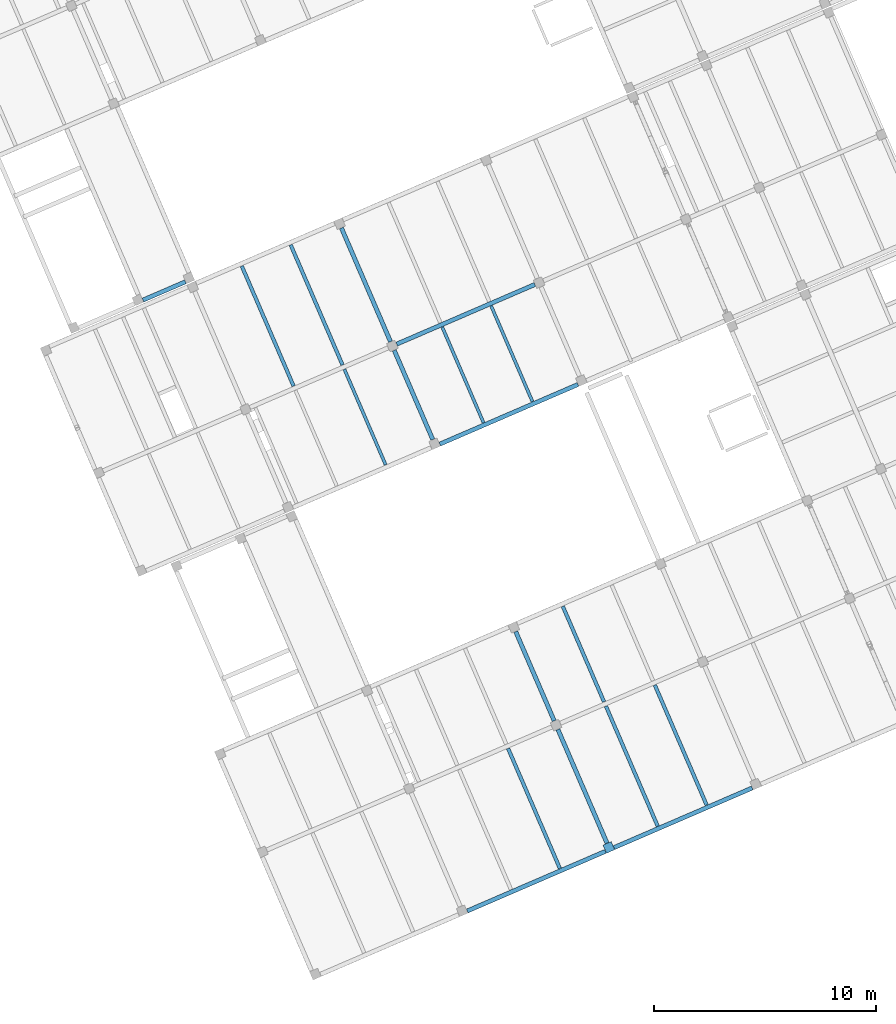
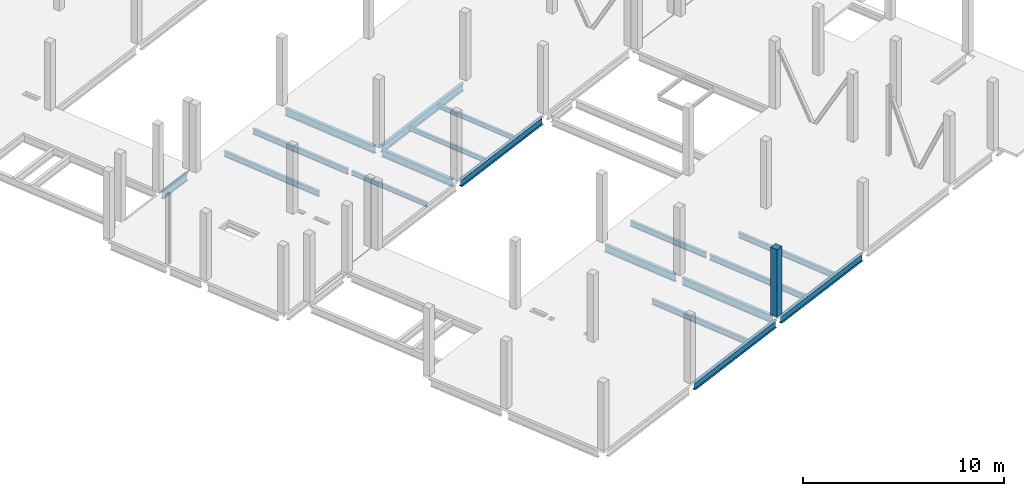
# One storey, part 9 of 24: 18 beams, 1 member.
"""IFC4 building model written with IfcOpenShell, lengths in metres."""

import ifcopenshell
import ifcopenshell.guid

model = None  # the IFC model being written
_history = None  # IfcOwnerHistory: only IFC2X3 demands one
_inside = {}  # id of a spatial element -> (the spatial element, [elements in it])
_under = {}  # id of a project, library or spatial element -> (it, [spatial elements below it])
_declared = {}  # id of a project -> (the project, [libraries it declares])
_typed = {}  # id of a type object -> (the type object, [elements of that type])
_made_of = {}  # id of a material, layer set ... -> (it, [elements and type objects made of it])


def new_model(schema):
    """Start an empty IFC model of exactly this schema.

    Asked for "IFC4X3", IfcOpenShell would pick the latest addendum, in which some entities
    have other attributes; the version numbers below select the first issue.
    IFC2X3 requires an IfcOwnerHistory on every rooted entity: one is made here for all.
    """
    global model, _history
    if schema == "IFC4X3":
        model = ifcopenshell.file(schema_version=(4, 3, 0, 0))
    else:
        model = ifcopenshell.file(schema=schema)
    _inside.clear()
    _under.clear()
    _declared.clear()
    _typed.clear()
    _made_of.clear()
    _history = None
    if model.schema == "IFC2X3":
        org = make("IfcOrganization", Name="unknown")
        user = make(
            "IfcPersonAndOrganization",
            ThePerson=make("IfcPerson", FamilyName="unknown"),
            TheOrganization=org,
        )
        app = make(
            "IfcApplication",
            ApplicationDeveloper=org,
            Version="unknown",
            ApplicationFullName="unknown",
            ApplicationIdentifier="unknown",
        )
        _history = make(
            "IfcOwnerHistory",
            OwningUser=user,
            OwningApplication=app,
            ChangeAction="ADDED",
            CreationDate=0,
        )
    return model


def make(cls, **values):
    """One entity of the class cls with the attributes given. An attribute that is None is left unset."""
    return model.create_entity(
        cls, **{name: value for name, value in values.items() if value is not None}
    )


def entity(cls, *values):
    """Any entity or typed value of the class cls, its attributes in the order of the schema. None: left unset."""
    e = model.create_entity(cls)
    for i, value in enumerate(values):
        if value is not None:
            e[i] = value
    return e


def rooted(cls, **values):
    """An entity with a GlobalId (a new one), such as an element, a storey or a relation."""
    return make(cls, GlobalId=ifcopenshell.guid.new(), OwnerHistory=_history, **values)


def si_unit(unit_type, name, prefix=None):
    """IfcSIUnit, for example si_unit("LENGTHUNIT", "METRE", prefix="MILLI")."""
    return make("IfcSIUnit", UnitType=unit_type, Prefix=prefix, Name=name)


def converted_unit(unit_type, name, factor, base, dimensions=None, offset=None):
    """IfcConversionBasedUnit, such as the inch: factor (a typed value) times the base unit."""
    return make(
        "IfcConversionBasedUnit"
        if offset is None
        else "IfcConversionBasedUnitWithOffset",
        ConversionOffset=offset,
        Dimensions=None
        if dimensions is None
        else entity("IfcDimensionalExponents", *dimensions),
        UnitType=unit_type,
        Name=name,
        ConversionFactor=make(
            "IfcMeasureWithUnit", ValueComponent=factor, UnitComponent=base
        ),
    )


def derived_unit(unit_type, elements):
    """IfcDerivedUnit: a product of units, each with its exponent."""
    return make(
        "IfcDerivedUnit",
        Elements=[
            make("IfcDerivedUnitElement", Unit=unit, Exponent=power)
            for unit, power in elements
        ],
        UnitType=unit_type,
    )


def assignment(units):
    """IfcUnitAssignment: the units of a project."""
    return None if units is None else make("IfcUnitAssignment", Units=units)


def point(xyz):
    """IfcCartesianPoint."""
    return None if xyz is None else make("IfcCartesianPoint", Coordinates=xyz)


def direction(xyz):
    """IfcDirection."""
    return None if xyz is None else make("IfcDirection", DirectionRatios=xyz)


def frame(location, z_axis=None, x_axis=None):
    """IfcAxis2Placement3D, a coordinate frame: its origin and axes. An axis left out is left unset."""
    return make(
        "IfcAxis2Placement3D",
        Location=point(location),
        Axis=direction(z_axis),
        RefDirection=direction(x_axis),
    )


def origin():
    """The frame at (0, 0, 0) with its axes left unset."""
    return frame((0.0, 0.0, 0.0))


def place(relative_to, where):
    """IfcLocalPlacement: puts the frame where relative to a parent placement (None: the world)."""
    return make(
        "IfcLocalPlacement", PlacementRelTo=relative_to, RelativePlacement=where
    )


def context(
    kind, dimensions, precision=None, world=None, true_north=None, identifier=None
):
    """IfcGeometricRepresentationContext, for example the 3D "Model" context."""
    return make(
        "IfcGeometricRepresentationContext",
        ContextIdentifier=identifier,
        ContextType=kind,
        CoordinateSpaceDimension=dimensions,
        Precision=precision,
        WorldCoordinateSystem=world,
        TrueNorth=true_north,
    )


def subcontext(parent, identifier, kind, view, scale=None):
    """IfcGeometricRepresentationSubContext, for example "Body" below "Model"."""
    return make(
        "IfcGeometricRepresentationSubContext",
        ContextIdentifier=identifier,
        ContextType=kind,
        ParentContext=parent,
        TargetScale=scale,
        TargetView=view,
    )


def project(units=None, contexts=None):
    """IfcProject with its units and contexts."""
    return rooted(
        "IfcProject",
        Name="project",
        RepresentationContexts=contexts,
        UnitsInContext=assignment(units),
    )


def spatial(cls, under=None, at=None, **own):
    """A site, building, storey or space (cls), placed at a placement, below another one or the project."""
    s = rooted(cls, ObjectPlacement=at, **own)
    if under is not None:
        _under.setdefault(under.id(), (under, []))[1].append(s)
    return s


def point_list(points):
    """IfcCartesianPointList2D or 3D."""
    cls = (
        "IfcCartesianPointList2D" if len(points[0]) == 2 else "IfcCartesianPointList3D"
    )
    return make(cls, CoordList=points)


def line(*indices):
    """IfcLineIndex: a straight run through numbered points of an indexed curve."""
    return model.create_entity("IfcLineIndex", indices)


def arc(*indices):
    """IfcArcIndex: an arc through three numbered points of an indexed curve."""
    return model.create_entity("IfcArcIndex", indices)


def indexed_curve(points, segments=None, self_intersect=None):
    """IfcIndexedPolyCurve: lines and arcs through numbered points (the first is 1)."""
    return make(
        "IfcIndexedPolyCurve",
        Points=point_list(points),
        Segments=segments,
        SelfIntersect=self_intersect,
    )


def outline(outer, holes=None, kind="AREA"):
    """IfcArbitraryClosedProfileDef: a profile drawn as a closed curve; with holes, ...WithVoids."""
    if holes is None:
        return make("IfcArbitraryClosedProfileDef", ProfileType=kind, OuterCurve=outer)
    return make(
        "IfcArbitraryProfileDefWithVoids",
        ProfileType=kind,
        OuterCurve=outer,
        InnerCurves=holes,
    )


def extrude(swept, where, along, depth):
    """IfcExtrudedAreaSolid: the profile swept, set in the frame where, extruded along a direction by depth."""
    return make(
        "IfcExtrudedAreaSolid",
        SweptArea=swept,
        Position=where,
        ExtrudedDirection=direction(along),
        Depth=depth,
    )


def shape(context_of_items, identifier, shape_type, items):
    """IfcShapeRepresentation: the items that make up one representation, for example the "Body"."""
    return make(
        "IfcShapeRepresentation",
        ContextOfItems=context_of_items,
        RepresentationIdentifier=identifier,
        RepresentationType=shape_type,
        Items=items,
    )


def source(mapping_origin, context_of_items, identifier, shape_type, items):
    """IfcRepresentationMap: a shape defined once, which mapped items show again and again."""
    return make(
        "IfcRepresentationMap",
        MappingOrigin=mapping_origin,
        MappedRepresentation=shape(context_of_items, identifier, shape_type, items),
    )


def transform(
    local_origin,
    x_axis=None,
    y_axis=None,
    z_axis=None,
    scale=None,
    scale2=None,
    scale3=None,
    uniform=True,
):
    """IfcCartesianTransformationOperator3D, or its non-uniform kind. x_axis, y_axis, z_axis: its Axis1, 2, 3."""
    if uniform:
        return make(
            "IfcCartesianTransformationOperator3D",
            Axis1=direction(x_axis),
            Axis2=direction(y_axis),
            LocalOrigin=point(local_origin),
            Scale=scale,
            Axis3=direction(z_axis),
        )
    return make(
        "IfcCartesianTransformationOperator3DnonUniform",
        Axis1=direction(x_axis),
        Axis2=direction(y_axis),
        LocalOrigin=point(local_origin),
        Scale=scale,
        Axis3=direction(z_axis),
        Scale2=scale2,
        Scale3=scale3,
    )


def mapped(mapping_source, mapping_target):
    """IfcMappedItem: shows the shape of a source again, moved by a transform."""
    return make(
        "IfcMappedItem", MappingSource=mapping_source, MappingTarget=mapping_target
    )


def material(Name=None, Category=None):
    """IfcMaterial."""
    return make("IfcMaterial", Name=Name, Category=Category)


def made_of(thing, what):
    """Note that an element or type object is made of a material, layer set ...; save() writes the relation."""
    if what is not None:
        _made_of.setdefault(what.id(), (what, []))[1].append(thing)
    return thing


def type_object(cls, material=None, **own):
    """A type object (cls), such as IfcWallType, which elements share."""
    return made_of(rooted(cls, **own), material)


def type_shapes(of_type, sources):
    """Give a type object the sources (RepresentationMaps) that its elements show as mapped items."""
    of_type.RepresentationMaps = sources


def element(
    cls,
    number,
    at=None,
    inside=None,
    cuts=None,
    type_object=None,
    material=None,
    context=None,
    identifier="Body",
    shape_type=None,
    held_by="IfcProductDefinitionShape",
    body=None,
    shapes=None,
    **own,
):
    """One element of the class cls, such as IfcWall. Its Tag is "e" and its number.

    at: its placement. inside: the storey or other place that contains it. cuts: it is an
    opening in that element (IfcRelVoidsElement). A single representation is given by context,
    identifier, shape_type and body (its items); several are given by shapes. held_by: the class
    of the entity that holds the representations. save() writes the other relations.
    """
    e = rooted(cls, Tag="e%d" % number, ObjectPlacement=at, **own)
    if body is not None:
        shapes = [shape(context, identifier, shape_type, body)]
    if shapes is not None:
        e.Representation = make(held_by, Representations=shapes)
    if inside is not None:
        _inside.setdefault(inside.id(), (inside, []))[1].append(e)
    if cuts is not None:
        rooted(
            "IfcRelVoidsElement", RelatingBuildingElement=cuts, RelatedOpeningElement=e
        )
    if type_object is not None:
        _typed.setdefault(type_object.id(), (type_object, []))[1].append(e)
    return made_of(e, material)


def aggregate(whole, parts):
    """IfcRelAggregates: a whole, such as a stair, and the parts it consists of."""
    return rooted("IfcRelAggregates", RelatingObject=whole, RelatedObjects=parts)


def save(model, path):
    """Write the relations noted so far, then the file.

    IfcRelAggregates (storeys below a building ...), IfcRelContainedInSpatialStructure (elements
    in a storey), IfcRelDefinesByType, IfcRelAssociatesMaterial and IfcRelDeclares: one each for
    every whole, place, type object, material and project.
    """
    for whole, parts in _under.values():
        aggregate(whole, parts)
    for where, things in _inside.values():
        rooted(
            "IfcRelContainedInSpatialStructure",
            RelatedElements=things,
            RelatingStructure=where,
        )
    for kind, things in _typed.values():
        rooted("IfcRelDefinesByType", RelatedObjects=things, RelatingType=kind)
    for what, things in _made_of.values():
        rooted("IfcRelAssociatesMaterial", RelatedObjects=things, RelatingMaterial=what)
    for by, libraries in _declared.values():
        rooted("IfcRelDeclares", RelatingContext=by, RelatedDefinitions=libraries)
    model.write(path)


model = new_model("IFC4")

# Units and contexts
model_context = context("Model", 3, precision=1e-05, world=origin(), true_north=direction((6.12323399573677e-17, 1.0)))
body_context = subcontext(model_context, "Body", "Model", "MODEL_VIEW")
ifc_project = project(units=[si_unit("LENGTHUNIT", "METRE"), si_unit("AREAUNIT", "SQUARE_METRE"), si_unit("VOLUMEUNIT", "CUBIC_METRE"), converted_unit("PLANEANGLEUNIT", "DEGREE", entity("IfcPlaneAngleMeasure", 0.0174532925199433), si_unit("PLANEANGLEUNIT", "RADIAN"), dimensions=[0, 0, 0, 0, 0, 0, 0]), si_unit("MASSUNIT", "GRAM", prefix="KILO"), derived_unit("MOMENTOFINERTIAUNIT", [(si_unit("LENGTHUNIT", "METRE"), 4)]), derived_unit("LINEARFORCEUNIT", [(si_unit("MASSUNIT", "GRAM", prefix="KILO"), 1), (si_unit("TIMEUNIT", "SECOND"), -2)]), derived_unit("WARPINGCONSTANTUNIT", [(si_unit("LENGTHUNIT", "METRE"), 6)]), derived_unit("THERMALTRANSMITTANCEUNIT", [(si_unit("MASSUNIT", "GRAM", prefix="KILO"), 1), (si_unit("THERMODYNAMICTEMPERATUREUNIT", "KELVIN"), -1), (si_unit("TIMEUNIT", "SECOND"), -3)]), derived_unit("USERDEFINED", [(si_unit("MASSUNIT", "GRAM", prefix="KILO"), 1), (si_unit("TIMEUNIT", "SECOND"), -2), (si_unit("THERMODYNAMICTEMPERATUREUNIT", "KELVIN"), -1)]), derived_unit("THERMALRESISTANCEUNIT", [(si_unit("MASSUNIT", "GRAM", prefix="KILO"), -1), (si_unit("TIMEUNIT", "SECOND"), 3), (si_unit("THERMODYNAMICTEMPERATUREUNIT", "KELVIN"), 1)])], contexts=[model_context])

# Site, building, storey
site_placement = place(None, origin())
site = spatial("IfcSite", under=ifc_project, at=site_placement, Name="Default", CompositionType="ELEMENT")
building_placement = place(site_placement, frame((12.6613425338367, -82.5732315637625, 317.15), z_axis=(0.0, 0.0, 1.0), x_axis=(-0.396377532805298, 0.918087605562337, 0.0)))
building = spatial("IfcBuilding", under=site, at=building_placement, Name="CESFAM Coyhaique", CompositionType="ELEMENT")
storey_placement = place(building_placement, frame((0.0, 0.0, 4.20000000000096)))
storey = spatial("IfcBuildingStorey", under=building, at=storey_placement, Name="Nivel 2", CompositionType="ELEMENT", Elevation=4.20000000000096)

# Beams
ifc_material_1 = material(Name="Steel, 45-345", Category="Metal")
beam_type_1 = type_object("IfcBeamType", Name="M_W Shapes:W450X190mm", PredefinedType="BEAM", material=ifc_material_1)
shared_shape_1 = source(origin(), body_context, "Body", "SweptSolid", [
    extrude(outline(indexed_curve([(-0.225, -0.0950000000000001), (-0.215350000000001, -0.0950000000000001), (-0.21535, -0.01057), (-0.213109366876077, -0.00516063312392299), (-0.2077, -0.00291999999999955), (0.207699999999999, -0.00292000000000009), (0.213109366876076, -0.00516063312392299), (0.215349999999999, -0.01057), (0.215349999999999, -0.0950000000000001), (0.225, -0.0950000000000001), (0.225, 0.0950000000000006), (0.215349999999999, 0.0950000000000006), (0.215349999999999, 0.0105700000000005), (0.213109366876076, 0.00516063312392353), (0.207699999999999, 0.00292000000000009), (-0.2077, 0.00292000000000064), (-0.213109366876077, 0.00516063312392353), (-0.215350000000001, 0.0105700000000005), (-0.215350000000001, 0.0949999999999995), (-0.225, 0.0949999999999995)], segments=[line(1, 2, 3), arc(3, 4, 5), line(5, 6), arc(6, 7, 8), line(8, 9, 10, 11, 12, 13), arc(13, 14, 15), line(15, 16), arc(16, 17, 18), line(18, 19, 20, 1)], self_intersect=False)), frame((4.3815534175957, 2.8028504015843, 3.82500000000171), z_axis=(1.0, 0.0, 0.0), x_axis=(0.0, 0.0, -1.0)), (0.0, 0.0, 1.0), 5.5746),
])
type_shapes(beam_type_1, [shared_shape_1])
beam_1_placement = place(storey_placement, frame((0.0, 0.0, -4.20000000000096)))
element("IfcBeam", 1, at=beam_1_placement, inside=storey, type_object=beam_type_1, Name="M_W Shapes:W450X190mm", ObjectType="M_W Shapes:W450X190mm", PredefinedType="BEAM", context=body_context, shape_type="MappedRepresentation", body=[
    mapped(shared_shape_1, transform((0.0, 0.0, 0.0), scale=1.0)),
])
beam_type_2 = type_object("IfcBeamType", Name="M_W Shapes:W450X190mm", PredefinedType="BEAM", material=ifc_material_1)
shared_shape_2 = source(origin(), body_context, "Body", "SweptSolid", [
    extrude(outline(indexed_curve([(-0.225, -0.0950000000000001), (-0.215350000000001, -0.0950000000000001), (-0.21535, -0.01057), (-0.213109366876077, -0.00516063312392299), (-0.2077, -0.00291999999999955), (0.207699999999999, -0.00292000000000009), (0.213109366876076, -0.00516063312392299), (0.215349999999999, -0.01057), (0.215349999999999, -0.0950000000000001), (0.225, -0.0950000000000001), (0.225, 0.0950000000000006), (0.215349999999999, 0.0950000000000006), (0.215349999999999, 0.0105700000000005), (0.213109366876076, 0.00516063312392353), (0.207699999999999, 0.00292000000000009), (-0.2077, 0.00292000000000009), (-0.213109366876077, 0.00516063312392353), (-0.215350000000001, 0.0105700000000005), (-0.215350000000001, 0.0949999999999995), (-0.225, 0.0950000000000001)], segments=[line(1, 2, 3), arc(3, 4, 5), line(5, 6), arc(6, 7, 8), line(8, 9, 10, 11, 12, 13), arc(13, 14, 15), line(15, 16), arc(16, 17, 18), line(18, 19, 20, 1)], self_intersect=False)), frame((10.3815534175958, 2.8028504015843, 3.82500000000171), z_axis=(1.0, 0.0, 0.0), x_axis=(0.0, 0.0, -1.0)), (0.0, 0.0, 1.0), 4.3746),
])
type_shapes(beam_type_2, [shared_shape_2])
beam_2_placement = place(storey_placement, frame((0.0, 0.0, -4.20000000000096)))
element("IfcBeam", 2, at=beam_2_placement, inside=storey, type_object=beam_type_2, Name="M_W Shapes:W450X190mm", ObjectType="M_W Shapes:W450X190mm", PredefinedType="BEAM", context=body_context, shape_type="MappedRepresentation", body=[
    mapped(shared_shape_2, transform((0.0, 0.0, 0.0), scale=1.0)),
])
beam_type_3 = type_object("IfcBeamType", Name="M_W Shapes:W450X190mm", PredefinedType="BEAM", material=ifc_material_1)
shared_shape_3 = source(origin(), body_context, "Body", "SweptSolid", [
    extrude(outline(indexed_curve([(-0.225, -0.0950000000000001), (-0.215350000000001, -0.0950000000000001), (-0.21535, -0.01057), (-0.213109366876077, -0.00516063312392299), (-0.2077, -0.00291999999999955), (0.207699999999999, -0.00292000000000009), (0.213109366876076, -0.00516063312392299), (0.215349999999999, -0.01057), (0.215349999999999, -0.0950000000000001), (0.225, -0.0950000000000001), (0.225, 0.0950000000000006), (0.215349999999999, 0.0950000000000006), (0.215349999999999, 0.0105700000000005), (0.213109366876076, 0.00516063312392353), (0.207699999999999, 0.00292000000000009), (-0.2077, 0.00292000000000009), (-0.213109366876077, 0.00516063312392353), (-0.215350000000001, 0.0105700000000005), (-0.215350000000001, 0.0949999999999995), (-0.225, 0.0950000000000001)], segments=[line(1, 2, 3), arc(3, 4, 5), line(5, 6), arc(6, 7, 8), line(8, 9, 10, 11, 12, 13), arc(13, 14, 15), line(15, 16), arc(16, 17, 18), line(18, 19, 20, 1)], self_intersect=False)), frame((24.1815534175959, 2.8028504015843, 3.82500000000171), z_axis=(1.0, 0.0, 0.0), x_axis=(0.0, 0.0, -1.0)), (0.0, 0.0, 1.0), 4.3746),
])
type_shapes(beam_type_3, [shared_shape_3])
beam_3_placement = place(storey_placement, frame((0.0, 0.0, -4.20000000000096)))
element("IfcBeam", 3, at=beam_3_placement, inside=storey, type_object=beam_type_3, Name="M_W Shapes:W450X190mm", ObjectType="M_W Shapes:W450X190mm", PredefinedType="BEAM", context=body_context, shape_type="MappedRepresentation", body=[
    mapped(shared_shape_3, transform((0.0, 0.0, 0.0), scale=1.0)),
])
beam_type_4 = type_object("IfcBeamType", Name="M_W Shapes:W450X190mm", PredefinedType="BEAM", material=ifc_material_1)
shared_shape_4 = source(origin(), body_context, "Body", "SweptSolid", [
    extrude(outline(indexed_curve([(-0.0950000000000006, -0.225000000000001), (0.0950000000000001, -0.225000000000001), (0.0950000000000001, -0.21535), (0.01057, -0.21535), (0.00516063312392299, -0.213109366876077), (0.00291999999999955, -0.2077), (0.00291999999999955, 0.207699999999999), (0.00516063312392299, 0.213109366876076), (0.01057, 0.21535), (0.094999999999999, 0.21535), (0.0949999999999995, 0.224999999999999), (-0.0950000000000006, 0.224999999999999), (-0.0950000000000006, 0.21535), (-0.0105700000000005, 0.215349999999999), (-0.00516063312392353, 0.213109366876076), (-0.00292000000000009, 0.207699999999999), (-0.00292000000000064, -0.2077), (-0.00516063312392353, -0.213109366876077), (-0.0105700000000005, -0.21535), (-0.0950000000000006, -0.21535)], segments=[line(1, 2, 3, 4), arc(4, 5, 6), line(6, 7), arc(7, 8, 9), line(9, 10, 11, 12, 13, 14), arc(14, 15, 16), line(16, 17), arc(17, 18, 19), line(19, 20, 1)], self_intersect=False)), frame((4.06885341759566, 3.0155504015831, 3.82500000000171), z_axis=(0.0, 1.0, 0.0), x_axis=(-1.0, 0.0, 0.0)), (0.0, 0.0, 1.0), 6.7746),
])
type_shapes(beam_type_4, [shared_shape_4])
beam_4_placement = place(storey_placement, frame((0.0, 0.0, -4.20000000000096)))
element("IfcBeam", 4, at=beam_4_placement, inside=storey, type_object=beam_type_4, Name="M_W Shapes:W450X190mm", ObjectType="M_W Shapes:W450X190mm", PredefinedType="BEAM", context=body_context, shape_type="MappedRepresentation", body=[
    mapped(shared_shape_4, transform((0.0, 0.0, 0.0), scale=1.0)),
])
beam_type_5 = type_object("IfcBeamType", Name="M_W Shapes:W450X190mm", PredefinedType="BEAM", material=ifc_material_1)
shared_shape_5 = source(origin(), body_context, "Body", "SweptSolid", [
    extrude(outline(indexed_curve([(-0.0950000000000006, -0.225000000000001), (0.0950000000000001, -0.225000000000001), (0.0950000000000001, -0.21535), (0.01057, -0.21535), (0.00516063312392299, -0.213109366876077), (0.00291999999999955, -0.2077), (0.00291999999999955, 0.207699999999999), (0.00516063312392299, 0.213109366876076), (0.01057, 0.21535), (0.094999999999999, 0.21535), (0.0949999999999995, 0.224999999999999), (-0.0950000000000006, 0.224999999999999), (-0.0950000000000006, 0.21535), (-0.0105700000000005, 0.215349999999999), (-0.00516063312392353, 0.213109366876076), (-0.00292000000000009, 0.207699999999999), (-0.00292000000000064, -0.2077), (-0.00516063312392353, -0.213109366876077), (-0.0105700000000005, -0.21535), (-0.0950000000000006, -0.21535)], segments=[line(1, 2, 3, 4), arc(4, 5, 6), line(6, 7), arc(7, 8, 9), line(9, 10, 11, 12, 13, 14), arc(14, 15, 16), line(16, 17), arc(17, 18, 19), line(19, 20, 1)], self_intersect=False)), frame((4.06885341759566, -4.18444959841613, 3.82500000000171), z_axis=(0.0, 1.0, 0.0), x_axis=(-1.0, 0.0, 0.0)), (0.0, 0.0, 1.0), 6.7746),
])
type_shapes(beam_type_5, [shared_shape_5])
beam_5_placement = place(storey_placement, frame((0.0, 0.0, -4.20000000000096)))
element("IfcBeam", 5, at=beam_5_placement, inside=storey, type_object=beam_type_5, Name="M_W Shapes:W450X190mm", ObjectType="M_W Shapes:W450X190mm", PredefinedType="BEAM", context=body_context, shape_type="MappedRepresentation", body=[
    mapped(shared_shape_5, transform((0.0, 0.0, 0.0), scale=1.0)),
])
beam_type_6 = type_object("IfcBeamType", Name="M_W Shapes:W450X190mm", PredefinedType="BEAM", material=ifc_material_1)
shared_shape_6 = source(origin(), body_context, "Body", "SweptSolid", [
    extrude(outline(indexed_curve([(-0.0950000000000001, -0.225000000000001), (0.0950000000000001, -0.225000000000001), (0.0950000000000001, -0.21535), (0.0105699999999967, -0.21535), (0.00516063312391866, -0.213109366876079), (0.00291999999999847, -0.2077), (0.00291999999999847, 0.207699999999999), (0.00516063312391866, 0.213109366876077), (0.0105700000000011, 0.21535), (0.0950000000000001, 0.21535), (0.0950000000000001, 0.224999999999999), (-0.0950000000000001, 0.224999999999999), (-0.0950000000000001, 0.21535), (-0.0105700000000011, 0.215349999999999), (-0.00516063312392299, 0.213109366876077), (-0.0029200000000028, 0.207699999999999), (-0.0029200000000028, -0.2077), (-0.00516063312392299, -0.213109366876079), (-0.0105700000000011, -0.21535), (-0.0950000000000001, -0.21535)], segments=[line(1, 2, 3, 4), arc(4, 5, 6), line(6, 7), arc(7, 8, 9), line(9, 10, 11, 12, 13, 14), arc(14, 15, 16), line(16, 17), arc(17, 18, 19), line(19, 20, 1)], self_intersect=False)), frame((23.8638534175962, -4.18444959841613, 3.82500000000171), z_axis=(0.0, 1.0, 0.0), x_axis=(-1.0, 0.0, 0.0)), (0.0, 0.0, 1.0), 6.7746),
])
type_shapes(beam_type_6, [shared_shape_6])
beam_6_placement = place(storey_placement, frame((0.0, 0.0, -4.20000000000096)))
element("IfcBeam", 6, at=beam_6_placement, inside=storey, type_object=beam_type_6, Name="M_W Shapes:W450X190mm", ObjectType="M_W Shapes:W450X190mm", PredefinedType="BEAM", context=body_context, shape_type="MappedRepresentation", body=[
    mapped(shared_shape_6, transform((0.0, 0.0, 0.0), scale=1.0)),
])
beam_type_7 = type_object("IfcBeamType", Name="M_W Shapes:W450X190mm", PredefinedType="BEAM", material=ifc_material_1)
shared_shape_7 = source(origin(), body_context, "Body", "SweptSolid", [
    extrude(outline(indexed_curve([(-0.0950000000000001, -0.225000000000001), (0.0950000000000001, -0.225000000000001), (0.0950000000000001, -0.21535), (0.0105699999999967, -0.21535), (0.00516063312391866, -0.213109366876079), (0.00291999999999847, -0.2077), (0.00291999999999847, 0.207699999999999), (0.00516063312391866, 0.213109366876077), (0.0105700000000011, 0.21535), (0.0950000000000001, 0.21535), (0.0950000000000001, 0.224999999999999), (-0.0950000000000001, 0.224999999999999), (-0.0950000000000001, 0.21535), (-0.0105700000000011, 0.215349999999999), (-0.00516063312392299, 0.213109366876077), (-0.0029200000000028, 0.207699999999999), (-0.0029200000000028, -0.2077), (-0.00516063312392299, -0.213109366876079), (-0.0105700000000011, -0.21535), (-0.0950000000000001, -0.21535)], segments=[line(1, 2, 3, 4), arc(4, 5, 6), line(6, 7), arc(7, 8, 9), line(9, 10, 11, 12, 13, 14), arc(14, 15, 16), line(16, 17), arc(17, 18, 19), line(19, 20, 1)], self_intersect=False)), frame((28.7688534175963, -4.18444959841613, 3.82500000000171), z_axis=(0.0, 1.0, 0.0), x_axis=(-1.0, 0.0, 0.0)), (0.0, 0.0, 1.0), 6.7746),
])
type_shapes(beam_type_7, [shared_shape_7])
beam_7_placement = place(storey_placement, frame((0.0, 0.0, -4.20000000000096)))
element("IfcBeam", 7, at=beam_7_placement, inside=storey, type_object=beam_type_7, Name="M_W Shapes:W450X190mm", ObjectType="M_W Shapes:W450X190mm", PredefinedType="BEAM", context=body_context, shape_type="MappedRepresentation", body=[
    mapped(shared_shape_7, transform((0.0, 0.0, 0.0), scale=1.0)),
])
beam_type_8 = type_object("IfcBeamType", Name="M_W Shapes:W450X190mm", PredefinedType="BEAM", material=ifc_material_1)
shared_shape_8 = source(origin(), body_context, "Body", "SweptSolid", [
    extrude(outline(indexed_curve([(-0.225, -0.0950000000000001), (-0.215350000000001, -0.0950000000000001), (-0.21535, -0.01057), (-0.213109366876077, -0.00516063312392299), (-0.2077, -0.00291999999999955), (0.207699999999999, -0.00292000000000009), (0.213109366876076, -0.00516063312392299), (0.215349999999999, -0.01057), (0.215349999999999, -0.0950000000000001), (0.225, -0.0950000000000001), (0.225, 0.0950000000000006), (0.215349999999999, 0.0950000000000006), (0.215349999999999, 0.0105700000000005), (0.213109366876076, 0.00516063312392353), (0.207699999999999, 0.00292000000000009), (-0.2077, 0.00292000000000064), (-0.213109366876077, 0.00516063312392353), (-0.215350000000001, 0.0105700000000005), (-0.215350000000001, 0.0949999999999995), (-0.225, 0.0949999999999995)], segments=[line(1, 2, 3), arc(3, 4, 5), line(5, 6), arc(6, 7, 8), line(8, 9, 10, 11, 12, 13), arc(13, 14, 15), line(15, 16), arc(16, 17, 18), line(18, 19, 20, 1)], self_intersect=False)), frame((28.981553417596, 2.8028504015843, 3.82500000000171), z_axis=(1.0, 0.0, 0.0), x_axis=(0.0, 0.0, -1.0)), (0.0, 0.0, 1.0), 5.5746),
])
type_shapes(beam_type_8, [shared_shape_8])
beam_8_placement = place(storey_placement, frame((0.0, 0.0, -4.20000000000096)))
element("IfcBeam", 8, at=beam_8_placement, inside=storey, type_object=beam_type_8, Name="M_W Shapes:W450X190mm", ObjectType="M_W Shapes:W450X190mm", PredefinedType="BEAM", context=body_context, shape_type="MappedRepresentation", body=[
    mapped(shared_shape_8, transform((0.0, 0.0, 0.0), scale=1.0)),
])

# Member
ifc_material_2 = material(Name="HA")
member_type = type_object("IfcMemberType", Name="M_Concrete-Square-Column:400 x 400mm", PredefinedType="BRACE", material=ifc_material_2)
shared_shape_9 = source(origin(), body_context, "Body", "SweptSolid", [
    extrude(outline(indexed_curve([(-0.2, -0.2), (0.2, -0.2), (0.2, 0.2), (-0.2, 0.2), (-0.2, -0.2)], self_intersect=False)), frame((4.16885341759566, 2.8028504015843, 4.20000000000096), z_axis=(0.0, 0.0, 1.0), x_axis=(-1.0, 0.0, 0.0)), (0.0, 0.0, 1.0), 4.10000000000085),
])
type_shapes(member_type, [shared_shape_9])
member_placement = place(storey_placement, frame((0.0, 0.0, -4.20000000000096)))
element("IfcMember", 9, at=member_placement, inside=storey, type_object=member_type, Name="M_Concrete-Square-Column:400 x 400mm", ObjectType="M_Concrete-Square-Column:400 x 400mm", PredefinedType="BRACE", context=body_context, shape_type="MappedRepresentation", body=[
    mapped(shared_shape_9, transform((0.0, 0.0, 0.0), scale=1.0)),
])

# Beams
beam_type_9 = type_object("IfcBeamType", Name="M_W Shapes:W450X190mm", PredefinedType="BEAM", material=ifc_material_1)
shared_shape_10 = source(origin(), body_context, "Body", "SweptSolid", [
    extrude(outline(indexed_curve([(-0.0949999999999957, -0.225000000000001), (0.0950000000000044, -0.225000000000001), (0.0950000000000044, -0.21535), (0.0105700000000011, -0.21535), (0.00516063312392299, -0.213109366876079), (0.0029200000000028, -0.2077), (0.0029200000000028, 0.207699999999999), (0.00516063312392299, 0.213109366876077), (0.0105700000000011, 0.21535), (0.0950000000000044, 0.21535), (0.0950000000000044, 0.224999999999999), (-0.0949999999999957, 0.224999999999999), (-0.0949999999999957, 0.21535), (-0.0105699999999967, 0.215349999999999), (-0.00516063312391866, 0.213109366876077), (-0.00291999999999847, 0.207699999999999), (-0.00291999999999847, -0.2077), (-0.00516063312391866, -0.213109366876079), (-0.0105699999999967, -0.21535), (-0.0949999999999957, -0.21535)], segments=[line(1, 2, 3, 4), arc(4, 5, 6), line(6, 7), arc(7, 8, 9), line(9, 10, 11, 12, 13, 14), arc(14, 15, 16), line(16, 17), arc(17, 18, 19), line(19, 20, 1)], self_intersect=False)), frame((35.1188533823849, 10.2155504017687, 3.82500000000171), z_axis=(0.0, 1.0, 0.0), x_axis=(-1.0, 0.0, 0.0)), (0.0, 0.0, 1.0), 2.0796),
])
type_shapes(beam_type_9, [shared_shape_10])
beam_9_placement = place(storey_placement, frame((0.0, 0.0, -4.20000000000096)))
element("IfcBeam", 10, at=beam_9_placement, inside=storey, type_object=beam_type_9, Name="M_W Shapes:W450X190mm", ObjectType="M_W Shapes:W450X190mm", PredefinedType="BEAM", context=body_context, shape_type="MappedRepresentation", body=[
    mapped(shared_shape_10, transform((0.0, 0.0, 0.0), scale=1.0)),
])
beam_type_10 = type_object("IfcBeamType", Name="M_W Shapes:W330X160mm", PredefinedType="BEAM", material=ifc_material_1)
shared_shape_11 = source(origin(), body_context, "Body", "SweptSolid", [
    extrude(outline(indexed_curve([(-0.164999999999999, -0.0799999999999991), (-0.15535, -0.0799999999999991), (-0.15535, -0.0105699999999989), (-0.153109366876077, -0.00516063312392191), (-0.1477, -0.00291999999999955), (0.1477, -0.00291999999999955), (0.153109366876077, -0.00516063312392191), (0.15535, -0.0105699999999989), (0.15535, -0.0799999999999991), (0.165, -0.0799999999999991), (0.165, 0.0800000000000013), (0.15535, 0.0800000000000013), (0.15535, 0.0105700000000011), (0.153109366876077, 0.00516063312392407), (0.1477, 0.00292000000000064), (-0.1477, 0.00292000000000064), (-0.153109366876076, 0.00516063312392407), (-0.15535, 0.0105700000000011), (-0.15535, 0.0800000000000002), (-0.164999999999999, 0.0800000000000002)], segments=[line(1, 2, 3), arc(3, 4, 5), line(5, 6), arc(6, 7, 8), line(8, 9, 10, 11, 12, 13), arc(13, 14, 15), line(15, 16), arc(16, 17, 18), line(18, 19, 20, 1)], self_intersect=False)), frame((4.17655341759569, 5.20285040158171, 3.88500000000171), z_axis=(1.0, 0.0, 0.0), x_axis=(0.0, 0.0, -1.0)), (0.0, 0.0, 1.0), 5.8846),
])
type_shapes(beam_type_10, [shared_shape_11])
beam_10_placement = place(storey_placement, frame((0.0, 0.0, -4.20000000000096)))
element("IfcBeam", 11, at=beam_10_placement, inside=storey, type_object=beam_type_10, Name="M_W Shapes:W330X160mm", ObjectType="M_W Shapes:W330X160mm", PredefinedType="BEAM", context=body_context, shape_type="MappedRepresentation", body=[
    mapped(shared_shape_11, transform((0.0, 0.0, 0.0), scale=1.0)),
])
beam_type_11 = type_object("IfcBeamType", Name="M_W Shapes:W330X160mm", PredefinedType="BEAM", material=ifc_material_1)
shared_shape_12 = source(origin(), body_context, "Body", "SweptSolid", [
    extrude(outline(indexed_curve([(-0.164999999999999, -0.0800000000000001), (-0.15535, -0.0800000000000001), (-0.15535, -0.01057), (-0.153109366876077, -0.00516063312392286), (-0.1477, -0.00291999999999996), (0.1477, -0.00291999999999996), (0.153109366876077, -0.00516063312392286), (0.15535, -0.01057), (0.15535, -0.0800000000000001), (0.165, -0.0800000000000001), (0.165, 0.0800000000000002), (0.15535, 0.0800000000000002), (0.15535, 0.0105700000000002), (0.153109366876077, 0.00516063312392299), (0.1477, 0.00292000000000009), (-0.1477, 0.00292000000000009), (-0.153109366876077, 0.00516063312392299), (-0.15535, 0.0105700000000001), (-0.15535, 0.0799999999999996), (-0.164999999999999, 0.0799999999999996)], segments=[line(1, 2, 3), arc(3, 4, 5), line(5, 6), arc(6, 7, 8), line(8, 9, 10, 11, 12, 13), arc(13, 14, 15), line(15, 16), arc(16, 17, 18), line(18, 19, 20, 1)], self_intersect=False)), frame((4.17655341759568, 0.402850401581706, 3.88500000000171), z_axis=(1.0, 0.0, 0.0), x_axis=(0.0, 0.0, -1.0)), (0.0, 0.0, 1.0), 5.8846),
])
type_shapes(beam_type_11, [shared_shape_12])
beam_11_placement = place(storey_placement, frame((0.0, 0.0, -4.20000000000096)))
element("IfcBeam", 12, at=beam_11_placement, inside=storey, type_object=beam_type_11, Name="M_W Shapes:W330X160mm", ObjectType="M_W Shapes:W330X160mm", PredefinedType="BEAM", context=body_context, shape_type="MappedRepresentation", body=[
    mapped(shared_shape_12, transform((0.0, 0.0, 0.0), scale=1.0)),
])
beam_type_12 = type_object("IfcBeamType", Name="M_W Shapes:W330X160mm", PredefinedType="BEAM", material=ifc_material_1)
shared_shape_13 = source(origin(), body_context, "Body", "SweptSolid", [
    extrude(outline(indexed_curve([(-0.164999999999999, -0.0800000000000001), (-0.15535, -0.0800000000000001), (-0.15535, -0.01057), (-0.153109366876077, -0.00516063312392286), (-0.1477, -0.00291999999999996), (0.1477, -0.00291999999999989), (0.153109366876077, -0.00516063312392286), (0.15535, -0.01057), (0.15535, -0.0800000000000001), (0.165, -0.08), (0.165000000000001, 0.0800000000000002), (0.15535, 0.0800000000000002), (0.15535, 0.0105700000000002), (0.153109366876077, 0.00516063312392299), (0.1477, 0.00292000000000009), (-0.1477, 0.00292000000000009), (-0.153109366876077, 0.00516063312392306), (-0.15535, 0.0105700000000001), (-0.15535, 0.0799999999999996), (-0.164999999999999, 0.0799999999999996)], segments=[line(1, 2, 3), arc(3, 4, 5), line(5, 6), arc(6, 7, 8), line(8, 9, 10, 11, 12, 13), arc(13, 14, 15), line(15, 16), arc(16, 17, 18), line(18, 19, 20, 1)], self_intersect=False)), frame((10.2765534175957, 0.402850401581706, 3.88500000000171), z_axis=(1.0, 0.0, 0.0), x_axis=(0.0, 0.0, -1.0)), (0.0, 0.0, 1.0), 4.6846),
])
type_shapes(beam_type_12, [shared_shape_13])
beam_12_placement = place(storey_placement, frame((0.0, 0.0, -4.20000000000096)))
element("IfcBeam", 13, at=beam_12_placement, inside=storey, type_object=beam_type_12, Name="M_W Shapes:W330X160mm", ObjectType="M_W Shapes:W330X160mm", PredefinedType="BEAM", context=body_context, shape_type="MappedRepresentation", body=[
    mapped(shared_shape_13, transform((0.0, 0.0, 0.0), scale=1.0)),
])
beam_type_13 = type_object("IfcBeamType", Name="M_W Shapes:W330X160mm", PredefinedType="BEAM", material=ifc_material_1)
shared_shape_14 = source(origin(), body_context, "Body", "SweptSolid", [
    extrude(outline(indexed_curve([(-0.164999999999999, -0.0799999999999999), (-0.15535, -0.0799999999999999), (-0.15535, -0.0105699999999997), (-0.153109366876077, -0.00516063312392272), (-0.1477, -0.00291999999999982), (0.1477, -0.00291999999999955), (0.153109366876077, -0.00516063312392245), (0.15535, -0.0105699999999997), (0.15535, -0.0799999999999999), (0.165, -0.0799999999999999), (0.165, 0.0800000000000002), (0.15535, 0.0800000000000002), (0.15535, 0.0105700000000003), (0.153109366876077, 0.00516063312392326), (0.1477, 0.00292000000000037), (-0.1477, 0.00292000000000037), (-0.153109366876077, 0.00516063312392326), (-0.15535, 0.0105700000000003), (-0.15535, 0.0799999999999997), (-0.164999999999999, 0.0799999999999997)], segments=[line(1, 2, 3), arc(3, 4, 5), line(5, 6), arc(6, 7, 8), line(8, 9, 10, 11, 12, 13), arc(13, 14, 15), line(15, 16), arc(16, 17, 18), line(18, 19, 20, 1)], self_intersect=False)), frame((4.17655341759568, -1.99714959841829, 3.88500000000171), z_axis=(1.0, 0.0, 0.0), x_axis=(0.0, 0.0, -1.0)), (0.0, 0.0, 1.0), 5.8846),
])
type_shapes(beam_type_13, [shared_shape_14])
beam_13_placement = place(storey_placement, frame((0.0, 0.0, -4.20000000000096)))
element("IfcBeam", 14, at=beam_13_placement, inside=storey, type_object=beam_type_13, Name="M_W Shapes:W330X160mm", ObjectType="M_W Shapes:W330X160mm", PredefinedType="BEAM", context=body_context, shape_type="MappedRepresentation", body=[
    mapped(shared_shape_14, transform((0.0, 0.0, 0.0), scale=1.0)),
])
beam_type_14 = type_object("IfcBeamType", Name="M_W Shapes:W270X140mm", PredefinedType="BEAM", material=ifc_material_1)
shared_shape_15 = source(origin(), body_context, "Body", "SweptSolid", [
    extrude(outline(indexed_curve([(-0.135, -0.0700000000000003), (-0.125350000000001, -0.0700000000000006), (-0.125350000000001, -0.0105700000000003), (-0.123109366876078, -0.00516063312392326), (-0.1177, -0.00292000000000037), (0.117699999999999, -0.00292000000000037), (0.123109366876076, -0.00516063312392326), (0.125349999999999, -0.0105700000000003), (0.125349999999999, -0.0700000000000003), (0.135, -0.0700000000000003), (0.135, 0.0699999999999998), (0.125349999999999, 0.0699999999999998), (0.125349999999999, 0.0105699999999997), (0.123109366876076, 0.00516063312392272), (0.117699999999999, 0.00291999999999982), (-0.117700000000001, 0.00291999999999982), (-0.123109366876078, 0.00516063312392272), (-0.125350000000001, 0.01057), (-0.125350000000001, 0.0699999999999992), (-0.135, 0.0699999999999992)], segments=[line(1, 2, 3), arc(3, 4, 5), line(5, 6), arc(6, 7, 8), line(8, 9, 10, 11, 12, 13), arc(13, 14, 15), line(15, 16), arc(16, 17, 18), line(18, 19, 20, 1)], self_intersect=False)), frame((23.9715534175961, -1.99708262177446, 3.91500000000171), z_axis=(1.0, 0.0, 0.0), x_axis=(0.0, 0.0, -1.0)), (0.0, 0.0, 1.0), 4.6896),
])
type_shapes(beam_type_14, [shared_shape_15])
beam_14_placement = place(storey_placement, frame((0.0, 0.0, -4.20000000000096)))
element("IfcBeam", 15, at=beam_14_placement, inside=storey, type_object=beam_type_14, Name="M_W Shapes:W270X140mm", ObjectType="M_W Shapes:W270X140mm", PredefinedType="BEAM", context=body_context, shape_type="MappedRepresentation", body=[
    mapped(shared_shape_15, transform((0.0, 0.0, 0.0), scale=1.0)),
])
beam_type_15 = type_object("IfcBeamType", Name="M_W Shapes:W270X140mm", PredefinedType="BEAM", material=ifc_material_1)
shared_shape_16 = source(origin(), body_context, "Body", "SweptSolid", [
    extrude(outline(indexed_curve([(-0.135, -0.07), (-0.125350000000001, -0.07), (-0.125350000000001, -0.0105699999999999), (-0.123109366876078, -0.00516063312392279), (-0.1177, -0.00291999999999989), (0.117699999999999, -0.00291999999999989), (0.123109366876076, -0.00516063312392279), (0.125349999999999, -0.0105699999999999), (0.125349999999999, -0.07), (0.135, -0.07), (0.135, 0.0700000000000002), (0.125349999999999, 0.0700000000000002), (0.125349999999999, 0.0105700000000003), (0.123109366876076, 0.00516063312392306), (0.117699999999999, 0.00292000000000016), (-0.117700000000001, 0.00292000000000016), (-0.123109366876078, 0.00516063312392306), (-0.125350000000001, 0.0105700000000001), (-0.125350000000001, 0.0699999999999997), (-0.135, 0.0699999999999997)], segments=[line(1, 2, 3), arc(3, 4, 5), line(5, 6), arc(6, 7, 8), line(8, 9, 10, 11, 12, 13), arc(13, 14, 15), line(15, 16), arc(16, 17, 18), line(18, 19, 20, 1)], self_intersect=False)), frame((23.9715534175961, 0.402917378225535, 3.91500000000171), z_axis=(1.0, 0.0, 0.0), x_axis=(0.0, 0.0, -1.0)), (0.0, 0.0, 1.0), 4.6896),
])
type_shapes(beam_type_15, [shared_shape_16])
beam_15_placement = place(storey_placement, frame((0.0, 0.0, -4.20000000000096)))
element("IfcBeam", 16, at=beam_15_placement, inside=storey, type_object=beam_type_15, Name="M_W Shapes:W270X140mm", ObjectType="M_W Shapes:W270X140mm", PredefinedType="BEAM", context=body_context, shape_type="MappedRepresentation", body=[
    mapped(shared_shape_16, transform((0.0, 0.0, 0.0), scale=1.0)),
])
beam_type_16 = type_object("IfcBeamType", Name="M_W Shapes:W270X140mm", PredefinedType="BEAM", material=ifc_material_1)
shared_shape_17 = source(origin(), body_context, "Body", "SweptSolid", [
    extrude(outline(indexed_curve([(-0.135, -0.0699999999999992), (-0.125350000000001, -0.0699999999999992), (-0.125350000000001, -0.0105699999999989), (-0.123109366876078, -0.00516063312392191), (-0.1177, -0.00291999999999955), (0.117699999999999, -0.00291999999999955), (0.123109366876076, -0.00516063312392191), (0.125349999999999, -0.0105699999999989), (0.125349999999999, -0.0699999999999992), (0.135, -0.0699999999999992), (0.135, 0.0700000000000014), (0.125349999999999, 0.0700000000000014), (0.12535, 0.0105700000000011), (0.123109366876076, 0.00516063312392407), (0.117699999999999, 0.00292000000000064), (-0.117700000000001, 0.00292000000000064), (-0.123109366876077, 0.00516063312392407), (-0.125350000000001, 0.01057), (-0.125350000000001, 0.0700000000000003), (-0.135, 0.0700000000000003)], segments=[line(1, 2, 3), arc(3, 4, 5), line(5, 6), arc(6, 7, 8), line(8, 9, 10, 11, 12, 13), arc(13, 14, 15), line(15, 16), arc(16, 17, 18), line(18, 19, 20, 1)], self_intersect=False)), frame((23.9765534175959, 5.20291737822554, 3.91500000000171), z_axis=(1.0, 0.0, 0.0), x_axis=(0.0, 0.0, -1.0)), (0.0, 0.0, 1.0), 4.6846),
])
type_shapes(beam_type_16, [shared_shape_17])
beam_16_placement = place(storey_placement, frame((0.0, 0.0, -4.20000000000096)))
element("IfcBeam", 17, at=beam_16_placement, inside=storey, type_object=beam_type_16, Name="M_W Shapes:W270X140mm", ObjectType="M_W Shapes:W270X140mm", PredefinedType="BEAM", context=body_context, shape_type="MappedRepresentation", body=[
    mapped(shared_shape_17, transform((0.0, 0.0, 0.0), scale=1.0)),
])
beam_type_17 = type_object("IfcBeamType", Name="M_W Shapes:W330X160mm", PredefinedType="BEAM", material=ifc_material_1)
shared_shape_18 = source(origin(), body_context, "Body", "SweptSolid", [
    extrude(outline(indexed_curve([(-0.164999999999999, -0.0799999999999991), (-0.15535, -0.0799999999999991), (-0.15535, -0.0105699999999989), (-0.153109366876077, -0.00516063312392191), (-0.1477, -0.00291999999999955), (0.1477, -0.00291999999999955), (0.153109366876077, -0.00516063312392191), (0.15535, -0.0105699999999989), (0.15535, -0.0799999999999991), (0.165, -0.0799999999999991), (0.165, 0.0800000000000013), (0.15535, 0.0800000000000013), (0.15535, 0.0105700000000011), (0.153109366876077, 0.00516063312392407), (0.1477, 0.00292000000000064), (-0.1477, 0.00292000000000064), (-0.153109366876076, 0.00516063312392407), (-0.15535, 0.0105700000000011), (-0.15535, 0.0800000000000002), (-0.164999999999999, 0.0800000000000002)], segments=[line(1, 2, 3), arc(3, 4, 5), line(5, 6), arc(6, 7, 8), line(8, 9, 10, 11, 12, 13), arc(13, 14, 15), line(15, 16), arc(16, 17, 18), line(18, 19, 20, 1)], self_intersect=False)), frame((28.876553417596, 5.20285040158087, 3.88500000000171), z_axis=(1.0, 0.0, 0.0), x_axis=(0.0, 0.0, -1.0)), (0.0, 0.0, 1.0), 5.8846),
])
type_shapes(beam_type_17, [shared_shape_18])
beam_17_placement = place(storey_placement, frame((0.0, 0.0, -4.20000000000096)))
element("IfcBeam", 18, at=beam_17_placement, inside=storey, type_object=beam_type_17, Name="M_W Shapes:W330X160mm", ObjectType="M_W Shapes:W330X160mm", PredefinedType="BEAM", context=body_context, shape_type="MappedRepresentation", body=[
    mapped(shared_shape_18, transform((0.0, 0.0, 0.0), scale=1.0)),
])
beam_type_18 = type_object("IfcBeamType", Name="M_W Shapes:W330X160mm", PredefinedType="BEAM", material=ifc_material_1)
shared_shape_19 = source(origin(), body_context, "Body", "SweptSolid", [
    extrude(outline(indexed_curve([(-0.164999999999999, -0.0799999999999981), (-0.15535, -0.0799999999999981), (-0.15535, -0.0105699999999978), (-0.153109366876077, -0.00516063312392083), (-0.1477, -0.00291999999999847), (0.1477, -0.00291999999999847), (0.153109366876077, -0.00516063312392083), (0.15535, -0.0105699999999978), (0.15535, -0.0799999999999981), (0.165, -0.0799999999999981), (0.165, 0.0800000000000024), (0.15535, 0.0800000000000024), (0.15535, 0.0105700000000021), (0.153109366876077, 0.00516063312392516), (0.1477, 0.00292000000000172), (-0.1477, 0.00292000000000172), (-0.153109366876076, 0.00516063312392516), (-0.15535, 0.0105700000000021), (-0.15535, 0.0800000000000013), (-0.164999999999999, 0.0800000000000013)], segments=[line(1, 2, 3), arc(3, 4, 5), line(5, 6), arc(6, 7, 8), line(8, 9, 10, 11, 12, 13), arc(13, 14, 15), line(15, 16), arc(16, 17, 18), line(18, 19, 20, 1)], self_intersect=False)), frame((28.876553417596, 7.60285040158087, 3.88500000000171), z_axis=(1.0, 0.0, 0.0), x_axis=(0.0, 0.0, -1.0)), (0.0, 0.0, 1.0), 5.8846),
])
type_shapes(beam_type_18, [shared_shape_19])
beam_18_placement = place(storey_placement, frame((0.0, 0.0, -4.20000000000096)))
element("IfcBeam", 19, at=beam_18_placement, inside=storey, type_object=beam_type_18, Name="M_W Shapes:W330X160mm", ObjectType="M_W Shapes:W330X160mm", PredefinedType="BEAM", context=body_context, shape_type="MappedRepresentation", body=[
    mapped(shared_shape_19, transform((0.0, 0.0, 0.0), scale=1.0)),
])

save(model, "model.ifc")
